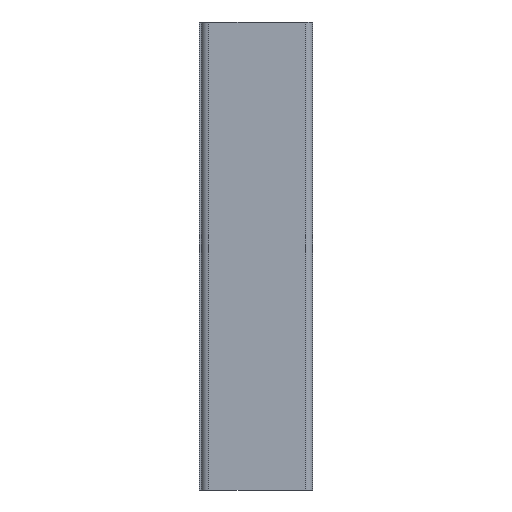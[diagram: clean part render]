
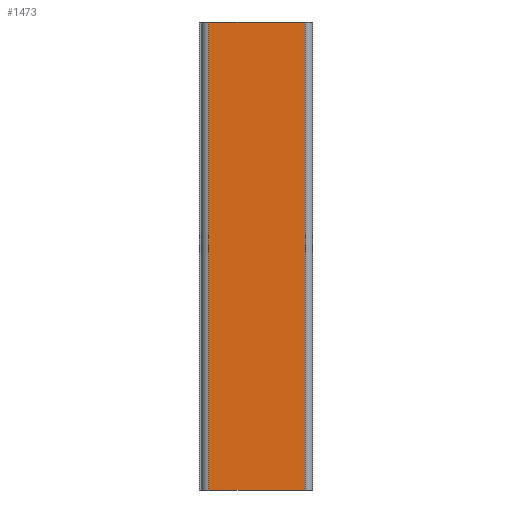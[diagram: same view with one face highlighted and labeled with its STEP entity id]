
A CAD part, left-side view. The second image highlights one B-rep face of the part: STEP entity #1473.
In plain terms, the highlighted planar face has unit normal (-1, 0, 0).
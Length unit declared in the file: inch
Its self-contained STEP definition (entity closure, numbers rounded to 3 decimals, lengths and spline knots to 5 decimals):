
#57=FACE_OUTER_BOUND('',#139,.T.);
#139=EDGE_LOOP('',(#1083,#1084,#1085,#1086));
#251=LINE('',#2146,#453);
#253=LINE('',#2152,#455);
#261=LINE('',#2170,#463);
#262=LINE('',#2171,#464);
#453=VECTOR('',#1750,0.063);
#455=VECTOR('',#1756,0.013);
#463=VECTOR('',#1768,0.013);
#464=VECTOR('',#1769,0.063);
#640=VERTEX_POINT('',#2143);
#641=VERTEX_POINT('',#2145);
#643=VERTEX_POINT('',#2151);
#651=VERTEX_POINT('',#2169);
#800=EDGE_CURVE('',#640,#641,#251,.T.);
#803=EDGE_CURVE('',#641,#643,#253,.T.);
#812=EDGE_CURVE('',#651,#640,#261,.T.);
#813=EDGE_CURVE('',#643,#651,#262,.T.);
#1083=ORIENTED_EDGE('',*,*,#800,.F.);
#1084=ORIENTED_EDGE('',*,*,#812,.F.);
#1085=ORIENTED_EDGE('',*,*,#813,.F.);
#1086=ORIENTED_EDGE('',*,*,#803,.F.);
#1392=PLANE('',#1575);
#1473=ADVANCED_FACE('',(#57),#1392,.T.);
#1575=AXIS2_PLACEMENT_3D('',#2168,#1766,#1767);
#1750=DIRECTION('',(0.,0.,-1.));
#1756=DIRECTION('',(0.,1.,0.));
#1766=DIRECTION('center_axis',(-1.,0.,0.));
#1767=DIRECTION('ref_axis',(0.,-1.,0.));
#1768=DIRECTION('',(0.,-1.,0.));
#1769=DIRECTION('',(0.,0.,1.));
#2143=CARTESIAN_POINT('',(-0.063,0.001,0.0315));
#2145=CARTESIAN_POINT('',(-0.063,0.001,-0.0315));
#2146=CARTESIAN_POINT('',(-0.063,0.001,0.));
#2151=CARTESIAN_POINT('',(-0.063,0.014,-0.0315));
#2152=CARTESIAN_POINT('',(-0.063,0.015,-0.0315));
#2168=CARTESIAN_POINT('Origin',(-0.063,0.015,0.));
#2169=CARTESIAN_POINT('',(-0.063,0.014,0.0315));
#2170=CARTESIAN_POINT('',(-0.063,0.015,0.0315));
#2171=CARTESIAN_POINT('',(-0.063,0.014,0.));
